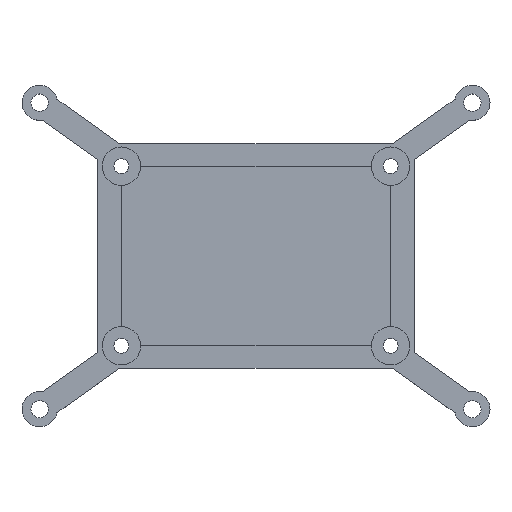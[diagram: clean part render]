
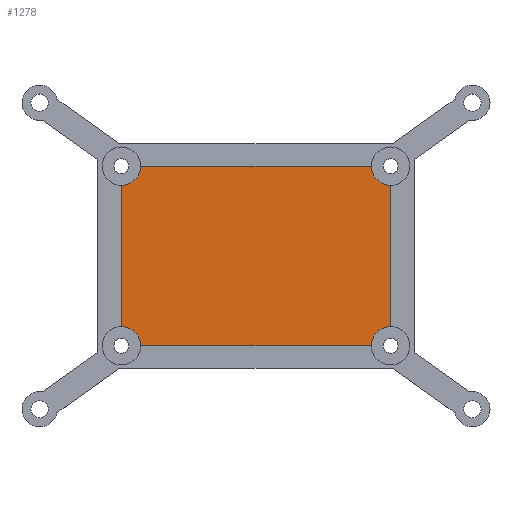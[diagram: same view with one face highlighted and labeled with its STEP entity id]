
A CAD part, top view. The second image highlights one B-rep face of the part: STEP entity #1278.
In plain terms, the highlighted planar face has unit normal (0, 0, 1).
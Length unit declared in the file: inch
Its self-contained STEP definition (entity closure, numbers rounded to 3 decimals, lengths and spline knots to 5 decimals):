
#3 = VECTOR ( 'NONE', #1242, 39.37008 ) ;
#20 = ORIENTED_EDGE ( 'NONE', *, *, #765, .F. ) ;
#57 = DIRECTION ( 'NONE',  ( 0., 0., 1. ) ) ;
#86 = EDGE_CURVE ( 'NONE', #558, #452, #449, .T. ) ;
#113 = ORIENTED_EDGE ( 'NONE', *, *, #1097, .F. ) ;
#120 = DIRECTION ( 'NONE',  ( 0., 1., 0. ) ) ;
#124 = ORIENTED_EDGE ( 'NONE', *, *, #1029, .F. ) ;
#128 = VERTEX_POINT ( 'NONE', #288 ) ;
#130 = CIRCLE ( 'NONE', #296, 0.15 ) ;
#183 = AXIS2_PLACEMENT_3D ( 'NONE', #351, #57, #628 ) ;
#184 = VERTEX_POINT ( 'NONE', #781 ) ;
#188 = VECTOR ( 'NONE', #120, 39.37008 ) ;
#191 = VECTOR ( 'NONE', #211, 39.37008 ) ;
#211 = DIRECTION ( 'NONE',  ( -1., 0., 0. ) ) ;
#240 = LINE ( 'NONE', #1104, #962 ) ;
#243 = CARTESIAN_POINT ( 'NONE',  ( -1.05, -0.55, 0.05 ) ) ;
#271 = DIRECTION ( 'NONE',  ( 1., 0., 0. ) ) ;
#276 = VERTEX_POINT ( 'NONE', #626 ) ;
#279 = EDGE_CURVE ( 'NONE', #1079, #558, #654, .T. ) ;
#288 = CARTESIAN_POINT ( 'NONE',  ( -0.9, 0.7, 0.05 ) ) ;
#296 = AXIS2_PLACEMENT_3D ( 'NONE', #1135, #870, #860 ) ;
#351 = CARTESIAN_POINT ( 'NONE',  ( 1.05, 0.7, 0.05 ) ) ;
#395 = AXIS2_PLACEMENT_3D ( 'NONE', #593, #698, #704 ) ;
#419 = CARTESIAN_POINT ( 'NONE',  ( 0.9, 0.7, 0.05 ) ) ;
#449 = LINE ( 'NONE', #1141, #3 ) ;
#452 = VERTEX_POINT ( 'NONE', #1161 ) ;
#480 = CARTESIAN_POINT ( 'NONE',  ( 1.05, -0.7, 0.05 ) ) ;
#489 = ORIENTED_EDGE ( 'NONE', *, *, #86, .F. ) ;
#554 = EDGE_CURVE ( 'NONE', #1167, #1091, #130, .T. ) ;
#558 = VERTEX_POINT ( 'NONE', #1038 ) ;
#561 = ORIENTED_EDGE ( 'NONE', *, *, #554, .F. ) ;
#593 = CARTESIAN_POINT ( 'NONE',  ( -1.05, 0.7, 0.05 ) ) ;
#595 = CIRCLE ( 'NONE', #395, 0.15 ) ;
#598 = CARTESIAN_POINT ( 'NONE',  ( -1.05, -0.55, 0.05 ) ) ;
#615 = DIRECTION ( 'NONE',  ( 1., 0., 0. ) ) ;
#618 = PLANE ( 'NONE',  #865 ) ;
#626 = CARTESIAN_POINT ( 'NONE',  ( -1.05, 0.55, 0.05 ) ) ;
#628 = DIRECTION ( 'NONE',  ( 1., 0., 0. ) ) ;
#654 = CIRCLE ( 'NONE', #183, 0.15 ) ;
#691 = DIRECTION ( 'NONE',  ( 0., 0., 1. ) ) ;
#693 = ORIENTED_EDGE ( 'NONE', *, *, #279, .F. ) ;
#698 = DIRECTION ( 'NONE',  ( 0., 0., 1. ) ) ;
#704 = DIRECTION ( 'NONE',  ( 1., 0., 0. ) ) ;
#756 = EDGE_LOOP ( 'NONE', ( #20, #124, #561, #1077, #1018, #489, #693, #113 ) ) ;
#765 = EDGE_CURVE ( 'NONE', #276, #128, #595, .T. ) ;
#781 = CARTESIAN_POINT ( 'NONE',  ( 0.9, -0.7, 0.05 ) ) ;
#798 = EDGE_CURVE ( 'NONE', #184, #1167, #1012, .T. ) ;
#810 = EDGE_CURVE ( 'NONE', #452, #184, #1113, .T. ) ;
#860 = DIRECTION ( 'NONE',  ( 1., 0., 0. ) ) ;
#865 = AXIS2_PLACEMENT_3D ( 'NONE', #1210, #926, #615 ) ;
#870 = DIRECTION ( 'NONE',  ( 0., 0., 1. ) ) ;
#926 = DIRECTION ( 'NONE',  ( 0., 0., 1. ) ) ;
#962 = VECTOR ( 'NONE', #1221, 39.37008 ) ;
#1012 = LINE ( 'NONE', #1098, #191 ) ;
#1018 = ORIENTED_EDGE ( 'NONE', *, *, #810, .F. ) ;
#1029 = EDGE_CURVE ( 'NONE', #1091, #276, #1156, .T. ) ;
#1030 = CARTESIAN_POINT ( 'NONE',  ( -0.9, -0.7, 0.05 ) ) ;
#1038 = CARTESIAN_POINT ( 'NONE',  ( 1.05, 0.55, 0.05 ) ) ;
#1062 = AXIS2_PLACEMENT_3D ( 'NONE', #480, #691, #271 ) ;
#1077 = ORIENTED_EDGE ( 'NONE', *, *, #798, .F. ) ;
#1079 = VERTEX_POINT ( 'NONE', #419 ) ;
#1091 = VERTEX_POINT ( 'NONE', #243 ) ;
#1097 = EDGE_CURVE ( 'NONE', #128, #1079, #240, .T. ) ;
#1098 = CARTESIAN_POINT ( 'NONE',  ( 0.9, -0.7, 0.05 ) ) ;
#1104 = CARTESIAN_POINT ( 'NONE',  ( 0.9, 0.7, 0.05 ) ) ;
#1113 = CIRCLE ( 'NONE', #1062, 0.15 ) ;
#1121 = FACE_OUTER_BOUND ( 'NONE', #756, .T. ) ;
#1135 = CARTESIAN_POINT ( 'NONE',  ( -1.05, -0.7, 0.05 ) ) ;
#1141 = CARTESIAN_POINT ( 'NONE',  ( 1.05, -0.55, 0.05 ) ) ;
#1156 = LINE ( 'NONE', #598, #188 ) ;
#1161 = CARTESIAN_POINT ( 'NONE',  ( 1.05, -0.55, 0.05 ) ) ;
#1167 = VERTEX_POINT ( 'NONE', #1030 ) ;
#1210 = CARTESIAN_POINT ( 'NONE',  ( -1.6875, 1.19537, 0.05 ) ) ;
#1221 = DIRECTION ( 'NONE',  ( 1., 0., 0. ) ) ;
#1242 = DIRECTION ( 'NONE',  ( 0., -1., 0. ) ) ;
#1278 = ADVANCED_FACE ( 'NONE', ( #1121 ), #618, .T. ) ;
